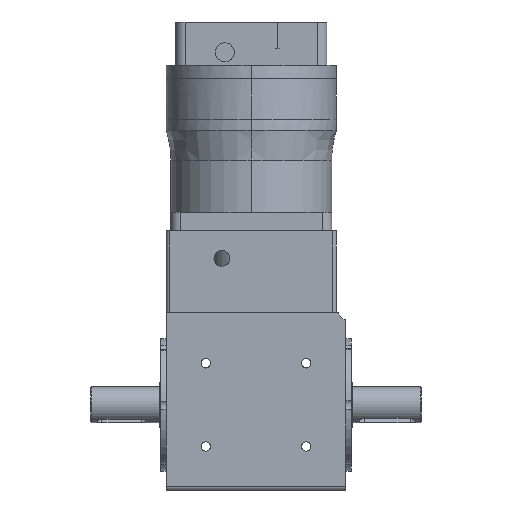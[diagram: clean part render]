
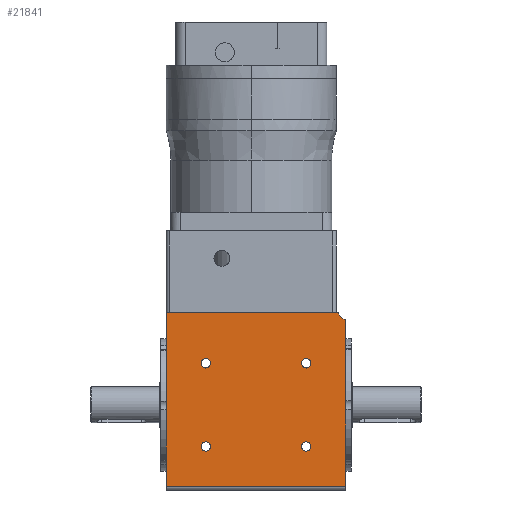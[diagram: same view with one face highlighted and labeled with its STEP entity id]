
A CAD part, left-side view. The second image highlights one B-rep face of the part: STEP entity #21841.
In plain terms, the highlighted planar face has unit normal (-1, 0, 0) as drawn and (0, 1, 0) by its records, which use the part's own axes.
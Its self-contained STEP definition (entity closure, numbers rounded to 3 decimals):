
#107 = VERTEX_POINT ( 'NONE', #6652 ) ;
#427 = EDGE_CURVE ( 'NONE', #14982, #21636, #555, .T. ) ;
#555 = CIRCLE ( 'NONE', #12452, 2.5 ) ;
#638 = DIRECTION ( 'NONE',  ( 0., 0., 1. ) ) ;
#639 = CARTESIAN_POINT ( 'NONE',  ( -5.779, 64.004, 17.5 ) ) ;
#728 = DIRECTION ( 'NONE',  ( 0., 1., 0. ) ) ;
#846 = CARTESIAN_POINT ( 'NONE',  ( -58.779, 64.004, -24. ) ) ;
#1051 = EDGE_LOOP ( 'NONE', ( #17746, #10469, #21486, #19655, #21200 ) ) ;
#1118 = AXIS2_PLACEMENT_3D ( 'NONE', #13741, #13575, #13497 ) ;
#1413 = DIRECTION ( 'NONE',  ( 1., 0., 0. ) ) ;
#1443 = CARTESIAN_POINT ( 'NONE',  ( -79.779, 64.004, -45. ) ) ;
#1518 = CIRCLE ( 'NONE', #1533, 5. ) ;
#1533 = AXIS2_PLACEMENT_3D ( 'NONE', #20459, #20416, #20362 ) ;
#1633 = CARTESIAN_POINT ( 'NONE',  ( -58.779, 64.004, -26.5 ) ) ;
#2255 = EDGE_CURVE ( 'NONE', #6643, #16161, #6853, .T. ) ;
#3274 = EDGE_LOOP ( 'NONE', ( #3774, #11810 ) ) ;
#3407 = FACE_BOUND ( 'NONE', #3274, .T. ) ;
#3774 = ORIENTED_EDGE ( 'NONE', *, *, #18748, .F. ) ;
#3956 = ORIENTED_EDGE ( 'NONE', *, *, #9761, .F. ) ;
#4242 = EDGE_CURVE ( 'NONE', #20909, #25160, #1518, .T. ) ;
#5506 = ORIENTED_EDGE ( 'NONE', *, *, #427, .F. ) ;
#5555 = CARTESIAN_POINT ( 'NONE',  ( -75.88, 64.004, 47. ) ) ;
#6521 = DIRECTION ( 'NONE',  ( 0., 0., 1. ) ) ;
#6619 = DIRECTION ( 'NONE',  ( 0., 1., 0. ) ) ;
#6643 = VERTEX_POINT ( 'NONE', #639 ) ;
#6652 = CARTESIAN_POINT ( 'NONE',  ( -58.779, 64.004, 22.5 ) ) ;
#6701 = CARTESIAN_POINT ( 'NONE',  ( -58.779, 64.004, 20. ) ) ;
#6853 = CIRCLE ( 'NONE', #24595, 2.5 ) ;
#7335 = AXIS2_PLACEMENT_3D ( 'NONE', #15309, #15226, #15154 ) ;
#7598 = EDGE_CURVE ( 'NONE', #107, #9029, #24047, .T. ) ;
#8347 = CARTESIAN_POINT ( 'NONE',  ( 15.221, 64.004, 47. ) ) ;
#8747 = FACE_BOUND ( 'NONE', #12688, .T. ) ;
#8998 = EDGE_CURVE ( 'NONE', #19892, #23521, #21624, .T. ) ;
#9010 = CIRCLE ( 'NONE', #24545, 2.5 ) ;
#9029 = VERTEX_POINT ( 'NONE', #24456 ) ;
#9349 = VECTOR ( 'NONE', #16994, 1000. ) ;
#9720 = DIRECTION ( 'NONE',  ( 0., 0., -1. ) ) ;
#9741 = CIRCLE ( 'NONE', #21220, 2.5 ) ;
#9761 = EDGE_CURVE ( 'NONE', #9029, #107, #10482, .T. ) ;
#9832 = CARTESIAN_POINT ( 'NONE',  ( 15.221, 64.004, 47. ) ) ;
#10469 = ORIENTED_EDGE ( 'NONE', *, *, #11598, .T. ) ;
#10482 = CIRCLE ( 'NONE', #21380, 2.5 ) ;
#10527 = CARTESIAN_POINT ( 'NONE',  ( -58.779, 64.004, -21.5 ) ) ;
#10567 = EDGE_CURVE ( 'NONE', #23521, #19892, #21667, .T. ) ;
#10825 = DIRECTION ( 'NONE',  ( 0., 0., 1. ) ) ;
#10905 = DIRECTION ( 'NONE',  ( 0., 1., 0. ) ) ;
#10994 = CARTESIAN_POINT ( 'NONE',  ( -5.779, 64.004, -24. ) ) ;
#11060 = ORIENTED_EDGE ( 'NONE', *, *, #7598, .F. ) ;
#11422 = DIRECTION ( 'NONE',  ( 0., 0., -1. ) ) ;
#11598 = EDGE_CURVE ( 'NONE', #23543, #20909, #17429, .T. ) ;
#11712 = DIRECTION ( 'NONE',  ( 0., 0., 1. ) ) ;
#11713 = VECTOR ( 'NONE', #1413, 1000. ) ;
#11744 = DIRECTION ( 'NONE',  ( 0., 1., 0. ) ) ;
#11798 = CARTESIAN_POINT ( 'NONE',  ( -5.779, 64.004, 20. ) ) ;
#11810 = ORIENTED_EDGE ( 'NONE', *, *, #2255, .F. ) ;
#12335 = EDGE_CURVE ( 'NONE', #21636, #14982, #9010, .T. ) ;
#12452 = AXIS2_PLACEMENT_3D ( 'NONE', #22608, #22576, #22569 ) ;
#12688 = EDGE_LOOP ( 'NONE', ( #5506, #17043 ) ) ;
#12724 = VERTEX_POINT ( 'NONE', #20194 ) ;
#13370 = CARTESIAN_POINT ( 'NONE',  ( -79.779, 64.004, 47. ) ) ;
#13497 = DIRECTION ( 'NONE',  ( 0., 0., 1. ) ) ;
#13571 = VERTEX_POINT ( 'NONE', #8347 ) ;
#13575 = DIRECTION ( 'NONE',  ( 0., 1., 0. ) ) ;
#13601 = EDGE_LOOP ( 'NONE', ( #17926, #25177 ) ) ;
#13741 = CARTESIAN_POINT ( 'NONE',  ( -58.779, 64.004, -24. ) ) ;
#14055 = FACE_BOUND ( 'NONE', #19446, .T. ) ;
#14686 = CARTESIAN_POINT ( 'NONE',  ( -5.779, 64.004, -21.5 ) ) ;
#14982 = VERTEX_POINT ( 'NONE', #14686 ) ;
#15154 = DIRECTION ( 'NONE',  ( 0., 0., 1. ) ) ;
#15226 = DIRECTION ( 'NONE',  ( 0., 1., 0. ) ) ;
#15309 = CARTESIAN_POINT ( 'NONE',  ( -58.779, 64.004, 20. ) ) ;
#15386 = CARTESIAN_POINT ( 'NONE',  ( -79.779, 64.004, 43.101 ) ) ;
#15510 = LINE ( 'NONE', #20215, #19543 ) ;
#15684 = AXIS2_PLACEMENT_3D ( 'NONE', #846, #728, #638 ) ;
#15727 = EDGE_CURVE ( 'NONE', #23543, #12724, #22295, .T. ) ;
#16161 = VERTEX_POINT ( 'NONE', #21467 ) ;
#16459 = CARTESIAN_POINT ( 'NONE',  ( -79.779, 64.004, 47. ) ) ;
#16662 = LINE ( 'NONE', #9832, #21326 ) ;
#16824 = EDGE_CURVE ( 'NONE', #13571, #12724, #16662, .T. ) ;
#16994 = DIRECTION ( 'NONE',  ( 0., 0., 1. ) ) ;
#17043 = ORIENTED_EDGE ( 'NONE', *, *, #12335, .F. ) ;
#17429 = LINE ( 'NONE', #16459, #9349 ) ;
#17746 = ORIENTED_EDGE ( 'NONE', *, *, #15727, .F. ) ;
#17926 = ORIENTED_EDGE ( 'NONE', *, *, #8998, .F. ) ;
#18748 = EDGE_CURVE ( 'NONE', #16161, #6643, #9741, .T. ) ;
#19314 = FACE_OUTER_BOUND ( 'NONE', #1051, .T. ) ;
#19326 = PLANE ( 'NONE',  #25044 ) ;
#19446 = EDGE_LOOP ( 'NONE', ( #11060, #3956 ) ) ;
#19543 = VECTOR ( 'NONE', #22228, 1000. ) ;
#19655 = ORIENTED_EDGE ( 'NONE', *, *, #24097, .T. ) ;
#19892 = VERTEX_POINT ( 'NONE', #10527 ) ;
#20194 = CARTESIAN_POINT ( 'NONE',  ( 15.221, 64.004, -45. ) ) ;
#20215 = CARTESIAN_POINT ( 'NONE',  ( 15.221, 64.004, 47. ) ) ;
#20362 = DIRECTION ( 'NONE',  ( 0., 0., -1. ) ) ;
#20416 = DIRECTION ( 'NONE',  ( 0., -1., 0. ) ) ;
#20459 = CARTESIAN_POINT ( 'NONE',  ( -80.779, 64.004, 48. ) ) ;
#20909 = VERTEX_POINT ( 'NONE', #15386 ) ;
#21200 = ORIENTED_EDGE ( 'NONE', *, *, #16824, .T. ) ;
#21220 = AXIS2_PLACEMENT_3D ( 'NONE', #11798, #11744, #11712 ) ;
#21326 = VECTOR ( 'NONE', #9720, 1000. ) ;
#21380 = AXIS2_PLACEMENT_3D ( 'NONE', #6701, #6619, #6521 ) ;
#21467 = CARTESIAN_POINT ( 'NONE',  ( -5.779, 64.004, 22.5 ) ) ;
#21486 = ORIENTED_EDGE ( 'NONE', *, *, #4242, .T. ) ;
#21624 = CIRCLE ( 'NONE', #15684, 2.5 ) ;
#21636 = VERTEX_POINT ( 'NONE', #24279 ) ;
#21649 = CARTESIAN_POINT ( 'NONE',  ( -79.779, 64.004, -45. ) ) ;
#21667 = CIRCLE ( 'NONE', #1118, 2.5 ) ;
#21841 = ADVANCED_FACE ( 'NONE', ( #19314, #8747, #24596, #14055, #3407 ), #19326, .F. ) ;
#22228 = DIRECTION ( 'NONE',  ( 1., 0., 0. ) ) ;
#22295 = LINE ( 'NONE', #1443, #11713 ) ;
#22569 = DIRECTION ( 'NONE',  ( 0., 0., 1. ) ) ;
#22576 = DIRECTION ( 'NONE',  ( 0., 1., 0. ) ) ;
#22608 = CARTESIAN_POINT ( 'NONE',  ( -5.779, 64.004, -24. ) ) ;
#23335 = DIRECTION ( 'NONE',  ( 0., -1., 0. ) ) ;
#23521 = VERTEX_POINT ( 'NONE', #1633 ) ;
#23543 = VERTEX_POINT ( 'NONE', #21649 ) ;
#24047 = CIRCLE ( 'NONE', #7335, 2.5 ) ;
#24097 = EDGE_CURVE ( 'NONE', #25160, #13571, #15510, .T. ) ;
#24279 = CARTESIAN_POINT ( 'NONE',  ( -5.779, 64.004, -26.5 ) ) ;
#24456 = CARTESIAN_POINT ( 'NONE',  ( -58.779, 64.004, 17.5 ) ) ;
#24545 = AXIS2_PLACEMENT_3D ( 'NONE', #10994, #10905, #10825 ) ;
#24595 = AXIS2_PLACEMENT_3D ( 'NONE', #25173, #25049, #25123 ) ;
#24596 = FACE_BOUND ( 'NONE', #13601, .T. ) ;
#25044 = AXIS2_PLACEMENT_3D ( 'NONE', #13370, #23335, #11422 ) ;
#25049 = DIRECTION ( 'NONE',  ( 0., 1., 0. ) ) ;
#25123 = DIRECTION ( 'NONE',  ( 0., 0., 1. ) ) ;
#25160 = VERTEX_POINT ( 'NONE', #5555 ) ;
#25173 = CARTESIAN_POINT ( 'NONE',  ( -5.779, 64.004, 20. ) ) ;
#25177 = ORIENTED_EDGE ( 'NONE', *, *, #10567, .F. ) ;
